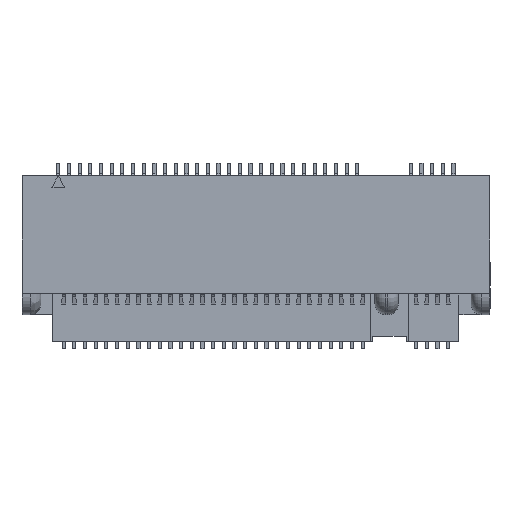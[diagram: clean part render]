
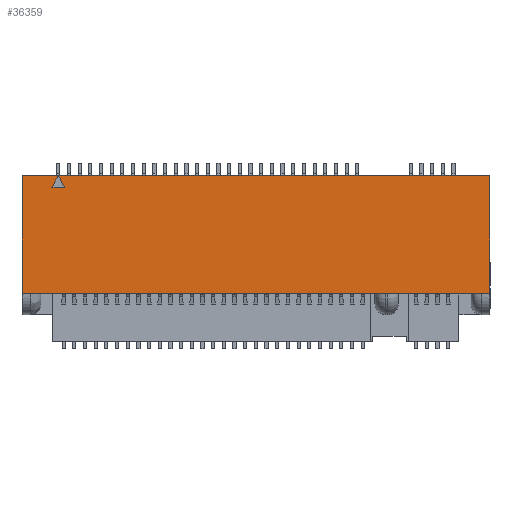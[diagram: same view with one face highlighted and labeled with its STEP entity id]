
A CAD part, top view. The second image highlights one B-rep face of the part: STEP entity #36359.
In plain terms, the highlighted planar face has unit normal (0, 0, 1).
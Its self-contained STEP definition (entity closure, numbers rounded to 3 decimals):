
#1091 = DIRECTION ( 'NONE',  ( 1., 0., 0. ) ) ;
#1537 = DIRECTION ( 'NONE',  ( 0.5, -0.866, 0. ) ) ;
#1586 = CARTESIAN_POINT ( 'NONE',  ( -10.95, 3.22, 3.77 ) ) ;
#1711 = CARTESIAN_POINT ( 'NONE',  ( 10.95, -1.75, 3.77 ) ) ;
#2462 = ORIENTED_EDGE ( 'NONE', *, *, #53186, .F. ) ;
#3303 = CARTESIAN_POINT ( 'NONE',  ( -10.95, -1.75, 3.77 ) ) ;
#5489 = EDGE_LOOP ( 'NONE', ( #45467, #46565, #27091, #25348, #45548, #8548, #2462, #33661 ) ) ;
#6133 = CARTESIAN_POINT ( 'NONE',  ( -10.575, -1.75, 3.77 ) ) ;
#6609 = CARTESIAN_POINT ( 'NONE',  ( -10.95, 3.751, 3.77 ) ) ;
#6868 = LINE ( 'NONE', #30263, #39248 ) ;
#7016 = EDGE_LOOP ( 'NONE', ( #63081, #64976, #19673 ) ) ;
#7311 = CARTESIAN_POINT ( 'NONE',  ( 6.675, -1.75, 3.77 ) ) ;
#7774 = CARTESIAN_POINT ( 'NONE',  ( -8.95, 3.22, 3.77 ) ) ;
#7921 = DIRECTION ( 'NONE',  ( 1., 0., 0. ) ) ;
#8536 = DIRECTION ( 'NONE',  ( 1., 0., 0. ) ) ;
#8548 = ORIENTED_EDGE ( 'NONE', *, *, #72977, .F. ) ;
#9251 = VERTEX_POINT ( 'NONE', #33695 ) ;
#9763 = VERTEX_POINT ( 'NONE', #67669 ) ;
#10840 = VERTEX_POINT ( 'NONE', #67685 ) ;
#11513 = EDGE_CURVE ( 'NONE', #51884, #9763, #65732, .T. ) ;
#11617 = DIRECTION ( 'NONE',  ( 1., 0., 0. ) ) ;
#13907 = DIRECTION ( 'NONE',  ( -1., 0., 0. ) ) ;
#14090 = CARTESIAN_POINT ( 'NONE',  ( 10.95, 3.751, 3.77 ) ) ;
#15046 = LINE ( 'NONE', #33445, #46341 ) ;
#16320 = VECTOR ( 'NONE', #61104, 1000. ) ;
#18769 = CARTESIAN_POINT ( 'NONE',  ( -9.25, 3.74, 3.77 ) ) ;
#19625 = LINE ( 'NONE', #46623, #45281 ) ;
#19673 = ORIENTED_EDGE ( 'NONE', *, *, #74840, .T. ) ;
#20457 = CARTESIAN_POINT ( 'NONE',  ( -10.95, 3.751, 3.77 ) ) ;
#20681 = AXIS2_PLACEMENT_3D ( 'NONE', #62458, #49017, #38670 ) ;
#23633 = PLANE ( 'NONE',  #20681 ) ;
#23795 = CARTESIAN_POINT ( 'NONE',  ( 6.175, -1.75, 3.77 ) ) ;
#24224 = LINE ( 'NONE', #70045, #55239 ) ;
#25348 = ORIENTED_EDGE ( 'NONE', *, *, #50843, .T. ) ;
#25742 = EDGE_CURVE ( 'NONE', #10840, #63673, #27063, .T. ) ;
#26126 = DIRECTION ( 'NONE',  ( 1., 0., 0. ) ) ;
#27063 = LINE ( 'NONE', #3303, #60523 ) ;
#27091 = ORIENTED_EDGE ( 'NONE', *, *, #11513, .F. ) ;
#27560 = VERTEX_POINT ( 'NONE', #37599 ) ;
#30098 = EDGE_CURVE ( 'NONE', #73141, #27560, #54247, .T. ) ;
#30263 = CARTESIAN_POINT ( 'NONE',  ( -10.95, -1.75, 3.77 ) ) ;
#31961 = LINE ( 'NONE', #55411, #48228 ) ;
#33445 = CARTESIAN_POINT ( 'NONE',  ( -10.95, -1.75, 3.77 ) ) ;
#33661 = ORIENTED_EDGE ( 'NONE', *, *, #49692, .T. ) ;
#33695 = CARTESIAN_POINT ( 'NONE',  ( -10.95, -1.75, 3.77 ) ) ;
#36359 = ADVANCED_FACE ( 'NONE', ( #71344, #54796 ), #23633, .T. ) ;
#37061 = EDGE_CURVE ( 'NONE', #51879, #9763, #6868, .T. ) ;
#37599 = CARTESIAN_POINT ( 'NONE',  ( -9.55, 3.22, 3.77 ) ) ;
#38670 = DIRECTION ( 'NONE',  ( 0., -1., 0. ) ) ;
#39248 = VECTOR ( 'NONE', #1091, 1000. ) ;
#42043 = VERTEX_POINT ( 'NONE', #6609 ) ;
#45281 = VECTOR ( 'NONE', #1537, 1000. ) ;
#45467 = ORIENTED_EDGE ( 'NONE', *, *, #46709, .T. ) ;
#45548 = ORIENTED_EDGE ( 'NONE', *, *, #25742, .T. ) ;
#46341 = VECTOR ( 'NONE', #26126, 1000. ) ;
#46565 = ORIENTED_EDGE ( 'NONE', *, *, #37061, .T. ) ;
#46623 = CARTESIAN_POINT ( 'NONE',  ( -9.25, 3.74, 3.77 ) ) ;
#46709 = EDGE_CURVE ( 'NONE', #9251, #51879, #15046, .T. ) ;
#48228 = VECTOR ( 'NONE', #49280, 1000. ) ;
#49017 = DIRECTION ( 'NONE',  ( 0., 0., 1. ) ) ;
#49280 = DIRECTION ( 'NONE',  ( 0.5, 0.866, 0. ) ) ;
#49692 = EDGE_CURVE ( 'NONE', #42043, #9251, #76013, .T. ) ;
#50843 = EDGE_CURVE ( 'NONE', #51884, #10840, #24224, .T. ) ;
#51879 = VERTEX_POINT ( 'NONE', #6133 ) ;
#51884 = VERTEX_POINT ( 'NONE', #23795 ) ;
#52215 = VERTEX_POINT ( 'NONE', #18769 ) ;
#52232 = VECTOR ( 'NONE', #66285, 1000. ) ;
#53186 = EDGE_CURVE ( 'NONE', #42043, #75876, #61205, .T. ) ;
#53201 = EDGE_CURVE ( 'NONE', #27560, #52215, #31961, .T. ) ;
#54247 = LINE ( 'NONE', #1586, #56209 ) ;
#54796 = FACE_OUTER_BOUND ( 'NONE', #5489, .T. ) ;
#55239 = VECTOR ( 'NONE', #11617, 1000. ) ;
#55411 = CARTESIAN_POINT ( 'NONE',  ( -9.55, 3.22, 3.77 ) ) ;
#56209 = VECTOR ( 'NONE', #13907, 1000. ) ;
#57952 = DIRECTION ( 'NONE',  ( 0., -1., 0. ) ) ;
#60523 = VECTOR ( 'NONE', #7921, 1000. ) ;
#61104 = DIRECTION ( 'NONE',  ( -1., 0., 0. ) ) ;
#61205 = LINE ( 'NONE', #20457, #69074 ) ;
#62458 = CARTESIAN_POINT ( 'NONE',  ( -10.95, 3.75, 3.77 ) ) ;
#63081 = ORIENTED_EDGE ( 'NONE', *, *, #30098, .T. ) ;
#63673 = VERTEX_POINT ( 'NONE', #1711 ) ;
#64976 = ORIENTED_EDGE ( 'NONE', *, *, #53201, .T. ) ;
#65148 = LINE ( 'NONE', #65899, #52232 ) ;
#65732 = LINE ( 'NONE', #7311, #16320 ) ;
#65899 = CARTESIAN_POINT ( 'NONE',  ( 10.95, -4., 3.77 ) ) ;
#66285 = DIRECTION ( 'NONE',  ( 0., -1., 0. ) ) ;
#67669 = CARTESIAN_POINT ( 'NONE',  ( 6.075, -1.75, 3.77 ) ) ;
#67685 = CARTESIAN_POINT ( 'NONE',  ( 10.575, -1.75, 3.77 ) ) ;
#69074 = VECTOR ( 'NONE', #8536, 1000. ) ;
#69885 = CARTESIAN_POINT ( 'NONE',  ( -10.95, -4., 3.77 ) ) ;
#70045 = CARTESIAN_POINT ( 'NONE',  ( -10.95, -1.75, 3.77 ) ) ;
#71344 = FACE_BOUND ( 'NONE', #7016, .T. ) ;
#71590 = VECTOR ( 'NONE', #57952, 1000. ) ;
#72977 = EDGE_CURVE ( 'NONE', #75876, #63673, #65148, .T. ) ;
#73141 = VERTEX_POINT ( 'NONE', #7774 ) ;
#74840 = EDGE_CURVE ( 'NONE', #52215, #73141, #19625, .T. ) ;
#75876 = VERTEX_POINT ( 'NONE', #14090 ) ;
#76013 = LINE ( 'NONE', #69885, #71590 ) ;
